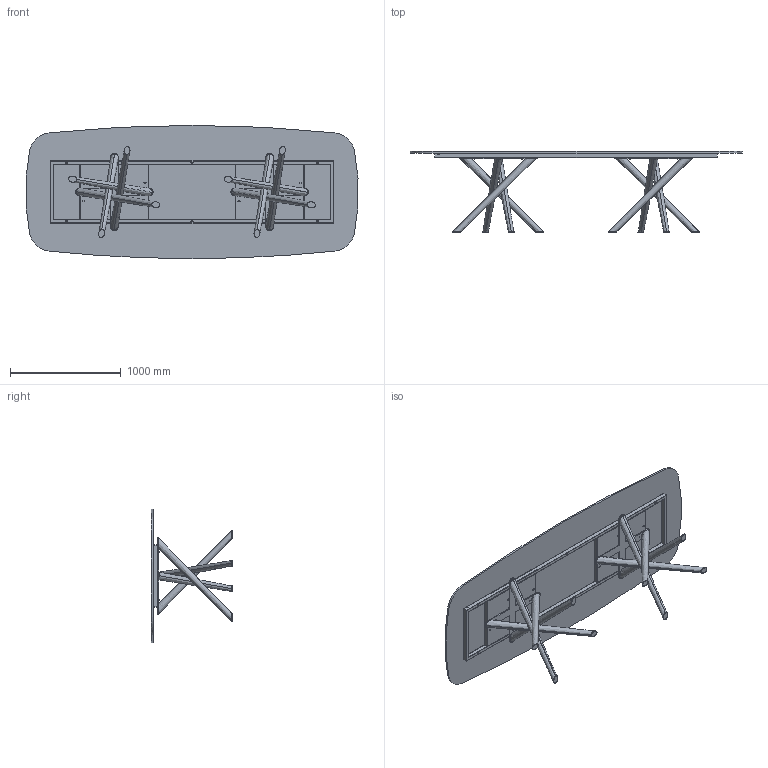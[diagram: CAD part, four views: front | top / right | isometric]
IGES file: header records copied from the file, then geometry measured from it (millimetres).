
Start section: SolidWorks IGES file using analytic representation for surfaces
Global section: file name: Y:\eforma\TECNICO\SOLIDWORKS\E-FORMA\1-TAVOLI\BALY\02 parts\BA44G.IGS; native system: SolidWorks 2022; preprocessor: SolidWorks 2022; author: eforma.tech; date: 240808.080813; units: millimetre
Bounding box: 2991.72 x 730 x 1200 mm (x, y, z)
Volume: 59781725.7 mm3; surface area: 13252159 mm2
Topology: 54 solids, 54 shells, 1033 faces, 2337 edges, 1398 vertices
Faces by surface type: revolution 587, plane 430, bspline 16
